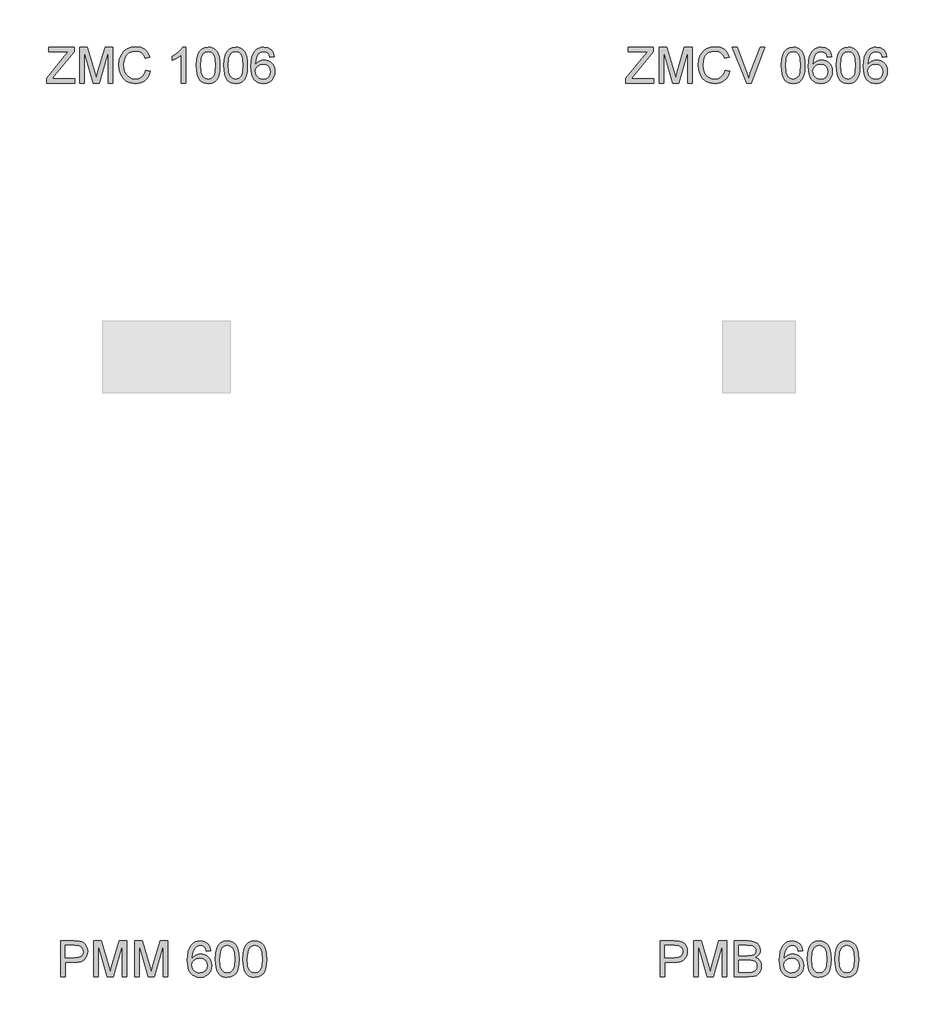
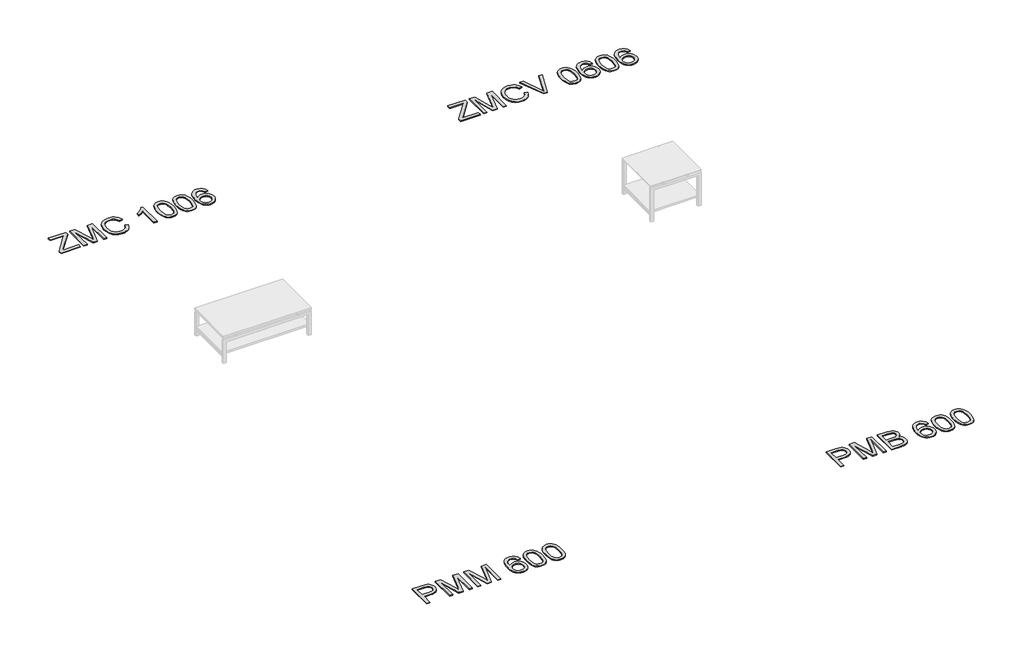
# One storey, part 4 of 5: 4 proxies.
"""IFC4 building model written with IfcOpenShell, lengths in millimetres."""

import ifcopenshell
import ifcopenshell.guid

model = None  # the IFC model being written
_history = None  # IfcOwnerHistory: only IFC2X3 demands one
_inside = {}  # id of a spatial element -> (the spatial element, [elements in it])
_under = {}  # id of a project, library or spatial element -> (it, [spatial elements below it])
_declared = {}  # id of a project -> (the project, [libraries it declares])
_typed = {}  # id of a type object -> (the type object, [elements of that type])
_made_of = {}  # id of a material, layer set ... -> (it, [elements and type objects made of it])


def new_model(schema):
    """Start an empty IFC model of exactly this schema.

    Asked for "IFC4X3", IfcOpenShell would pick the latest addendum, in which some entities
    have other attributes; the version numbers below select the first issue.
    IFC2X3 requires an IfcOwnerHistory on every rooted entity: one is made here for all.
    """
    global model, _history
    if schema == "IFC4X3":
        model = ifcopenshell.file(schema_version=(4, 3, 0, 0))
    else:
        model = ifcopenshell.file(schema=schema)
    _inside.clear()
    _under.clear()
    _declared.clear()
    _typed.clear()
    _made_of.clear()
    _history = None
    if model.schema == "IFC2X3":
        org = make("IfcOrganization", Name="unknown")
        user = make(
            "IfcPersonAndOrganization",
            ThePerson=make("IfcPerson", FamilyName="unknown"),
            TheOrganization=org,
        )
        app = make(
            "IfcApplication",
            ApplicationDeveloper=org,
            Version="unknown",
            ApplicationFullName="unknown",
            ApplicationIdentifier="unknown",
        )
        _history = make(
            "IfcOwnerHistory",
            OwningUser=user,
            OwningApplication=app,
            ChangeAction="ADDED",
            CreationDate=0,
        )
    return model


def make(cls, **values):
    """One entity of the class cls with the attributes given. An attribute that is None is left unset."""
    return model.create_entity(
        cls, **{name: value for name, value in values.items() if value is not None}
    )


def rooted(cls, **values):
    """An entity with a GlobalId (a new one), such as an element, a storey or a relation."""
    return make(cls, GlobalId=ifcopenshell.guid.new(), OwnerHistory=_history, **values)


def si_unit(unit_type, name, prefix=None):
    """IfcSIUnit, for example si_unit("LENGTHUNIT", "METRE", prefix="MILLI")."""
    return make("IfcSIUnit", UnitType=unit_type, Prefix=prefix, Name=name)


def assignment(units):
    """IfcUnitAssignment: the units of a project."""
    return None if units is None else make("IfcUnitAssignment", Units=units)


def point(xyz):
    """IfcCartesianPoint."""
    return None if xyz is None else make("IfcCartesianPoint", Coordinates=xyz)


def direction(xyz):
    """IfcDirection."""
    return None if xyz is None else make("IfcDirection", DirectionRatios=xyz)


def frame(location, z_axis=None, x_axis=None):
    """IfcAxis2Placement3D, a coordinate frame: its origin and axes. An axis left out is left unset."""
    return make(
        "IfcAxis2Placement3D",
        Location=point(location),
        Axis=direction(z_axis),
        RefDirection=direction(x_axis),
    )


def origin():
    """The frame at (0, 0, 0) with its axes left unset."""
    return frame((0.0, 0.0, 0.0))


def origin_with_axes():
    """The frame at (0, 0, 0) with the z axis (0, 0, 1) and the x axis (1, 0, 0) written out."""
    return frame((0.0, 0.0, 0.0), z_axis=(0.0, 0.0, 1.0), x_axis=(1.0, 0.0, 0.0))


def place(relative_to, where):
    """IfcLocalPlacement: puts the frame where relative to a parent placement (None: the world)."""
    return make(
        "IfcLocalPlacement", PlacementRelTo=relative_to, RelativePlacement=where
    )


def context(
    kind, dimensions, precision=None, world=None, true_north=None, identifier=None
):
    """IfcGeometricRepresentationContext, for example the 3D "Model" context."""
    return make(
        "IfcGeometricRepresentationContext",
        ContextIdentifier=identifier,
        ContextType=kind,
        CoordinateSpaceDimension=dimensions,
        Precision=precision,
        WorldCoordinateSystem=world,
        TrueNorth=true_north,
    )


def project(units=None, contexts=None):
    """IfcProject with its units and contexts."""
    return rooted(
        "IfcProject",
        Name="project",
        RepresentationContexts=contexts,
        UnitsInContext=assignment(units),
    )


def spatial(cls, under=None, at=None, **own):
    """A site, building, storey or space (cls), placed at a placement, below another one or the project."""
    s = rooted(cls, ObjectPlacement=at, **own)
    if under is not None:
        _under.setdefault(under.id(), (under, []))[1].append(s)
    return s


def polyline(points):
    """IfcPolyline through the points."""
    return make("IfcPolyline", Points=[point(p) for p in points])


def outline(outer, holes=None, kind="AREA"):
    """IfcArbitraryClosedProfileDef: a profile drawn as a closed curve; with holes, ...WithVoids."""
    if holes is None:
        return make("IfcArbitraryClosedProfileDef", ProfileType=kind, OuterCurve=outer)
    return make(
        "IfcArbitraryProfileDefWithVoids",
        ProfileType=kind,
        OuterCurve=outer,
        InnerCurves=holes,
    )


def extrude(swept, where, along, depth):
    """IfcExtrudedAreaSolid: the profile swept, set in the frame where, extruded along a direction by depth."""
    return make(
        "IfcExtrudedAreaSolid",
        SweptArea=swept,
        Position=where,
        ExtrudedDirection=direction(along),
        Depth=depth,
    )


def shape(context_of_items, identifier, shape_type, items):
    """IfcShapeRepresentation: the items that make up one representation, for example the "Body"."""
    return make(
        "IfcShapeRepresentation",
        ContextOfItems=context_of_items,
        RepresentationIdentifier=identifier,
        RepresentationType=shape_type,
        Items=items,
    )


def made_of(thing, what):
    """Note that an element or type object is made of a material, layer set ...; save() writes the relation."""
    if what is not None:
        _made_of.setdefault(what.id(), (what, []))[1].append(thing)
    return thing


def element(
    cls,
    number,
    at=None,
    inside=None,
    cuts=None,
    type_object=None,
    material=None,
    context=None,
    identifier="Body",
    shape_type=None,
    held_by="IfcProductDefinitionShape",
    body=None,
    shapes=None,
    **own,
):
    """One element of the class cls, such as IfcWall. Its Tag is "e" and its number.

    at: its placement. inside: the storey or other place that contains it. cuts: it is an
    opening in that element (IfcRelVoidsElement). A single representation is given by context,
    identifier, shape_type and body (its items); several are given by shapes. held_by: the class
    of the entity that holds the representations. save() writes the other relations.
    """
    e = rooted(cls, Tag="e%d" % number, ObjectPlacement=at, **own)
    if body is not None:
        shapes = [shape(context, identifier, shape_type, body)]
    if shapes is not None:
        e.Representation = make(held_by, Representations=shapes)
    if inside is not None:
        _inside.setdefault(inside.id(), (inside, []))[1].append(e)
    if cuts is not None:
        rooted(
            "IfcRelVoidsElement", RelatingBuildingElement=cuts, RelatedOpeningElement=e
        )
    if type_object is not None:
        _typed.setdefault(type_object.id(), (type_object, []))[1].append(e)
    return made_of(e, material)


def aggregate(whole, parts):
    """IfcRelAggregates: a whole, such as a stair, and the parts it consists of."""
    return rooted("IfcRelAggregates", RelatingObject=whole, RelatedObjects=parts)


def save(model, path):
    """Write the relations noted so far, then the file.

    IfcRelAggregates (storeys below a building ...), IfcRelContainedInSpatialStructure (elements
    in a storey), IfcRelDefinesByType, IfcRelAssociatesMaterial and IfcRelDeclares: one each for
    every whole, place, type object, material and project.
    """
    for whole, parts in _under.values():
        aggregate(whole, parts)
    for where, things in _inside.values():
        rooted(
            "IfcRelContainedInSpatialStructure",
            RelatedElements=things,
            RelatingStructure=where,
        )
    for kind, things in _typed.values():
        rooted("IfcRelDefinesByType", RelatedObjects=things, RelatingType=kind)
    for what, things in _made_of.values():
        rooted("IfcRelAssociatesMaterial", RelatedObjects=things, RelatingMaterial=what)
    for by, libraries in _declared.values():
        rooted("IfcRelDeclares", RelatingContext=by, RelatedDefinitions=libraries)
    model.write(path)


model = new_model("IFC4")

# Units and contexts
model_context = context("Model", 3, world=origin())
ifc_project = project(units=[si_unit("LENGTHUNIT", "METRE", prefix="MILLI")], contexts=[model_context])

# Site, building, storey
site = spatial("IfcSite", under=ifc_project)
building = spatial("IfcBuilding", under=site)
storey = spatial("IfcBuildingStorey", under=building, Name="Marelli - Linha PERFECTA - Planta Baixa", Elevation=0.0)

# Proxies
placement = place(None, origin())
element("IfcBuildingElementProxy", 1, Name="300mm Arial", ObjectType="300mm Arial", at=placement, inside=storey, context=model_context, shape_type="SweptSolid", body=[
    extrude(outline(polyline([(-70.4724751, 16219.4336799), (-70.4724751, 16258.5027478), (83.6700809, 16447.2262113), (112.9534877, 16483.1314941), (-51.6369169, 16483.1314941), (-51.6369169, 16520.8026104), (160.2631123, 16520.8026104), (160.2631123, 16483.1314941), (-8.4475707, 16276.602542), (-24.3400729, 16257.1047962), (164.9720019, 16257.1047962), (164.9720019, 16219.4336799), (-70.4724751, 16219.4336799)])), origin_with_axes(), (0.0, 0.0, 1.0), 10.0),
    extrude(outline(polyline([(207.3520077, 16219.4336799), (207.3520077, 16520.8026104), (272.1728153, 16520.8026104), (333.8298376, 16308.3875464), (346.2642491, 16264.0209777), (359.7287301, 16312.0663663), (420.3556829, 16520.8026104), (485.1764905, 16520.8026104), (485.1764905, 16219.4336799), (447.5053742, 16219.4336799), (447.5053742, 16483.1314941), (371.7952595, 16219.4336799), (320.7332386, 16219.4336799), (245.023124, 16483.1314941), (245.023124, 16219.4336799), (207.3520077, 16219.4336799)])), origin_with_axes(), (0.0, 0.0, 1.0), 10.0),
    extrude(outline(polyline([(763.0009732, 16326.5609169), (800.6720895, 16316.8488323), (793.2178806, 16293.4216469), (783.2896653, 16272.9513132), (770.8874435, 16255.4378309), (756.0112153, 16240.8812003), (738.996673, 16229.4377709), (720.179509, 16221.2638929), (699.5597232, 16216.359566), (677.1373155, 16214.7247904), (633.4421316, 16219.6728032), (598.7416624, 16234.5168417), (572.1437941, 16258.7418711), (552.756413, 16291.8328566), (540.9198098, 16330.7363776), (536.9742754, 16372.3990135), (541.4348446, 16416.3425179), (554.8165521, 16454.2895457), (576.4204223, 16485.0352834), (605.5474793, 16507.3749176), (640.0915986, 16520.9773543), (677.9466559, 16525.5114999), (719.2506069, 16519.6437821), (737.2193431, 16512.3091348), (753.3992531, 16502.0406286), (767.5236225, 16489.1095765), (779.3257368, 16473.7872914), (795.9632, 16435.9690223), (758.2920837, 16426.9927016), (745.2322729, 16454.4642896), (727.3899961, 16473.3090448), (704.5445242, 16484.2075489), (676.475128, 16487.8403836), (644.1199065, 16483.8120758), (617.5404323, 16471.7271522), (597.3713019, 16452.8548059), (584.2471118, 16428.4642296), (577.0458217, 16400.8914741), (574.6453917, 16372.4725899), (577.4872801, 16337.6709532), (586.0129453, 16307.578206), (600.5442841, 16283.3439795), (621.4031933, 16266.1179051), (646.4099719, 16255.8264063), (673.3849192, 16252.3959067), (704.8296327, 16257.068008), (731.0320278, 16271.0843121), (750.8148821, 16294.297666), (763.0009732, 16326.5609169)])), origin_with_axes(), (0.0, 0.0, 1.0), 10.0),
    extrude(outline(polyline([(1097.3321304, 16219.4336799), (1059.6610141, 16219.4336799), (1059.6610141, 16454.2895457), (1023.9764606, 16428.8688998), (984.3187815, 16409.8494006), (984.3187815, 16445.4603778), (1013.905691, 16461.5552151), (1039.537869, 16480.7034729), (1059.7437876, 16501.0657413), (1073.0519188, 16520.8026104), (1097.3321304, 16520.8026104), (1097.3321304, 16219.4336799)])), origin_with_axes(), (0.0, 0.0, 1.0), 10.0),
    extrude(outline(polyline([(1186.8010317, 16367.690124), (1189.5693437, 16415.9286506), (1197.8742797, 16454.3999103), (1211.6330663, 16483.6925141), (1230.7629301, 16504.3950734), (1255.4018267, 16516.7007261), (1285.687712, 16520.8026104), (1308.9010659, 16518.3745892), (1329.6863986, 16511.0905257), (1347.0688229, 16499.2355284), (1360.0734514, 16483.0947059), (1369.8959007, 16462.8060138), (1377.7317872, 16438.5074081), (1382.863741, 16407.6513057), (1384.5743923, 16367.690124), (1381.8336714, 16319.7275089), (1373.6115088, 16281.3482197), (1359.9354956, 16252.0280247), (1340.833223, 16231.242692), (1316.1391441, 16218.8542658), (1285.687712, 16214.7247904), (1264.9391674, 16216.5182151), (1246.5450677, 16221.8984893), (1230.5054127, 16230.8656129), (1216.8202025, 16243.419586), (1203.6868152, 16266.1133066), (1194.3058244, 16294.3896364), (1188.6772298, 16328.2485756), (1186.8010317, 16367.690124)]), holes=[polyline([(1224.472148, 16367.7637004), (1228.8867319, 16308.507108), (1234.4049618, 16288.2391093), (1242.1304837, 16274.211309), (1261.8489587, 16257.8497573), (1285.687712, 16252.3959067), (1309.5264653, 16257.8681514), (1329.2449402, 16274.2848854), (1336.9704621, 16288.3356784), (1342.488692, 16308.5990785), (1346.903276, 16367.7637004), (1342.6358448, 16425.6867205), (1337.3015559, 16445.8880406), (1329.8335514, 16460.249234), (1310.1518646, 16477.410929), (1285.2462536, 16483.1314941), (1261.6650177, 16478.0915107), (1242.7190949, 16462.9715607), (1234.7360556, 16447.3365759), (1229.0338847, 16426.2569376), (1224.472148, 16367.7637004)])]), origin_with_axes(), (0.0, 0.0, 1.0), 10.0),
    extrude(outline(polyline([(1417.536619, 16367.690124), (1420.3049311, 16415.9286506), (1428.6098671, 16454.3999103), (1442.3686537, 16483.6925141), (1461.4985175, 16504.3950734), (1486.1374141, 16516.7007261), (1516.4232993, 16520.8026104), (1539.6366532, 16518.3745892), (1560.421986, 16511.0905257), (1577.8044102, 16499.2355284), (1590.8090388, 16483.0947059), (1600.631488, 16462.8060138), (1608.4673745, 16438.5074081), (1613.5993284, 16407.6513057), (1615.3099796, 16367.690124), (1612.5692588, 16319.7275089), (1604.3470962, 16281.3482197), (1590.671083, 16252.0280247), (1571.5688104, 16231.242692), (1546.8747315, 16218.8542658), (1516.4232993, 16214.7247904), (1495.6747548, 16216.5182151), (1477.2806551, 16221.8984893), (1461.2410001, 16230.8656129), (1447.5557898, 16243.419586), (1434.4224026, 16266.1133066), (1425.0414117, 16294.3896364), (1419.4128172, 16328.2485756), (1417.536619, 16367.690124)]), holes=[polyline([(1455.2077353, 16367.7637004), (1459.6223193, 16308.507108), (1465.1405492, 16288.2391093), (1472.8660711, 16274.211309), (1492.5845461, 16257.8497573), (1516.4232993, 16252.3959067), (1540.2620526, 16257.8681514), (1559.9805276, 16274.2848854), (1567.7060495, 16288.3356784), (1573.2242794, 16308.5990785), (1577.6388633, 16367.7637004), (1573.3714322, 16425.6867205), (1568.0371433, 16445.8880406), (1560.5691388, 16460.249234), (1540.887452, 16477.410929), (1515.9818409, 16483.1314941), (1492.4006051, 16478.0915107), (1473.4546823, 16462.9715607), (1465.471643, 16447.3365759), (1459.7694721, 16426.2569376), (1455.2077353, 16367.7637004)])]), origin_with_axes(), (0.0, 0.0, 1.0), 10.0),
    extrude(outline(polyline([(1841.3366775, 16440.7514882), (1803.6655612, 16436.0425987), (1797.5955083, 16454.7126099), (1789.3917398, 16467.4597211), (1772.3036211, 16479.2135508), (1751.6470471, 16483.1314941), (1734.1358641, 16480.8506257), (1717.6547507, 16474.0080206), (1703.5004909, 16459.5962434), (1691.9397992, 16439.7582068), (1684.1315039, 16411.6980077), (1681.2344332, 16372.6197427), (1696.3451861, 16390.2504873), (1714.4541773, 16402.6757017), (1734.5497313, 16410.0425387), (1755.6201726, 16412.498151), (1773.7199668, 16410.8196894), (1790.4218093, 16405.7843046), (1805.7257003, 16397.3919966), (1819.6316398, 16385.6427654), (1831.1877329, 16371.2355867), (1839.4420852, 16354.8694365), (1844.3946966, 16336.5443146), (1846.045567, 16316.2602211), (1842.9369642, 16289.2852738), (1833.6111556, 16264.2784951), (1818.8406935, 16243.0700981), (1799.39813, 16227.4902956), (1776.166382, 16217.9161667), (1750.0283663, 16214.7247904), (1727.5714697, 16216.8401119), (1707.2896755, 16223.1860763), (1689.1829835, 16233.7626836), (1673.2513939, 16248.5699339), (1660.2628602, 16268.2332266), (1650.9853361, 16293.377961), (1645.4188217, 16324.0041371), (1643.5633169, 16360.1117549), (1645.623456, 16400.5925699), (1651.8038736, 16435.1412878), (1662.1045694, 16463.7579085), (1676.5255436, 16486.442432), (1692.1559299, 16501.4750101), (1710.2787167, 16512.2125658), (1730.893904, 16518.6550992), (1754.0014918, 16520.8026104), (1787.0556891, 16515.4867156), (1813.5247986, 16499.5390311), (1832.0660512, 16474.2103557), (1841.3366775, 16440.7514882)]), holes=[polyline([(1681.2344332, 16316.8488323), (1683.414134, 16300.1561867), (1689.9532365, 16284.2176993), (1700.1067795, 16270.514095), (1713.1298022, 16260.5260988), (1728.8475604, 16254.4284547), (1747.0853103, 16252.3959067), (1771.9449361, 16256.6081555), (1791.4886671, 16269.2449021), (1804.1530048, 16289.1105298), (1808.3744507, 16315.0094223), (1804.2081871, 16339.8690481), (1791.7093963, 16358.8241679), (1771.8345715, 16370.826318), (1745.5402059, 16374.8270347), (1720.7173683, 16370.826318), (1699.9596267, 16358.8241679), (1685.9157316, 16340.3289006), (1681.2344332, 16316.8488323)])]), origin_with_axes(), (0.0, 0.0, 1.0), 10.0),
])
element("IfcBuildingElementProxy", 2, Name="300mm Arial", ObjectType="300mm Arial", at=placement, inside=storey, context=model_context, shape_type="SweptSolid", body=[
    extrude(outline(polyline([(4790.6152836, 16219.4336799), (4790.6152836, 16258.5027478), (4944.7578395, 16447.2262113), (4974.0412464, 16483.1314941), (4809.4508417, 16483.1314941), (4809.4508417, 16520.8026104), (5021.3508709, 16520.8026104), (5021.3508709, 16483.1314941), (4852.640188, 16276.602542), (4836.7476858, 16257.1047962), (5026.0597605, 16257.1047962), (5026.0597605, 16219.4336799), (4790.6152836, 16219.4336799)])), origin_with_axes(), (0.0, 0.0, 1.0), 10.0),
    extrude(outline(polyline([(5068.4397663, 16219.4336799), (5068.4397663, 16520.8026104), (5133.2605739, 16520.8026104), (5194.9175963, 16308.3875464), (5207.3520077, 16264.0209777), (5220.8164887, 16312.0663663), (5281.4434415, 16520.8026104), (5346.2642491, 16520.8026104), (5346.2642491, 16219.4336799), (5308.5931328, 16219.4336799), (5308.5931328, 16483.1314941), (5232.8830182, 16219.4336799), (5181.8209972, 16219.4336799), (5106.1108826, 16483.1314941), (5106.1108826, 16219.4336799), (5068.4397663, 16219.4336799)])), origin_with_axes(), (0.0, 0.0, 1.0), 10.0),
    extrude(outline(polyline([(5624.0887318, 16326.5609169), (5661.7598481, 16316.8488323), (5654.3056392, 16293.4216469), (5644.3774239, 16272.9513132), (5631.9752021, 16255.4378309), (5617.0989739, 16240.8812003), (5600.0844317, 16229.4377709), (5581.2672676, 16221.2638929), (5560.6474818, 16216.359566), (5538.2250742, 16214.7247904), (5494.5298902, 16219.6728032), (5459.829421, 16234.5168417), (5433.2315527, 16258.7418711), (5413.8441716, 16291.8328566), (5402.0075684, 16330.7363776), (5398.062034, 16372.3990135), (5402.5226032, 16416.3425179), (5415.9043108, 16454.2895457), (5437.5081809, 16485.0352834), (5466.6352379, 16507.3749176), (5501.1793573, 16520.9773543), (5539.0344146, 16525.5114999), (5580.3383656, 16519.6437821), (5598.3071018, 16512.3091348), (5614.4870118, 16502.0406286), (5628.6113811, 16489.1095765), (5640.4134954, 16473.7872914), (5657.0509586, 16435.9690223), (5619.3798423, 16426.9927016), (5606.3200315, 16454.4642896), (5588.4777547, 16473.3090448), (5565.6322828, 16484.2075489), (5537.5628866, 16487.8403836), (5505.2076651, 16483.8120758), (5478.6281909, 16471.7271522), (5458.4590606, 16452.8548059), (5445.3348704, 16428.4642296), (5438.1335803, 16400.8914741), (5435.7331503, 16372.4725899), (5438.5750387, 16337.6709532), (5447.100704, 16307.578206), (5461.6320428, 16283.3439795), (5482.4909519, 16266.1179051), (5507.4977305, 16255.8264063), (5534.4726778, 16252.3959067), (5565.9173914, 16257.068008), (5592.1197865, 16271.0843121), (5611.9026407, 16294.297666), (5624.0887318, 16326.5609169)])), origin_with_axes(), (0.0, 0.0, 1.0), 10.0),
    extrude(outline(polyline([(5802.5850759, 16219.4336799), (5682.6555455, 16520.8026104), (5722.9754121, 16520.8026104), (5803.2472635, 16303.6786568), (5819.5076477, 16254.7503515), (5835.5473027, 16303.6786568), (5916.0398832, 16520.8026104), (5956.3597499, 16520.8026104), (5841.506991, 16219.4336799), (5802.5850759, 16219.4336799)])), origin_with_axes(), (0.0, 0.0, 1.0), 10.0),
    extrude(outline(polyline([(6094.9776857, 16367.690124), (6097.7459977, 16415.9286506), (6106.0509337, 16454.3999103), (6119.8097203, 16483.6925141), (6138.9395841, 16504.3950734), (6163.5784807, 16516.7007261), (6193.864366, 16520.8026104), (6217.0777199, 16518.3745892), (6237.8630526, 16511.0905257), (6255.2454769, 16499.2355284), (6268.2501054, 16483.0947059), (6278.0725547, 16462.8060138), (6285.9084412, 16438.5074081), (6291.040395, 16407.6513057), (6292.7510463, 16367.690124), (6290.0103254, 16319.7275089), (6281.7881628, 16281.3482197), (6268.1121496, 16252.0280247), (6249.009877, 16231.242692), (6224.3157981, 16218.8542658), (6193.864366, 16214.7247904), (6173.1158214, 16216.5182151), (6154.7217217, 16221.8984893), (6138.6820667, 16230.8656129), (6124.9968565, 16243.419586), (6111.8634692, 16266.1133066), (6102.4824784, 16294.3896364), (6096.8538838, 16328.2485756), (6094.9776857, 16367.690124)]), holes=[polyline([(6132.648802, 16367.7637004), (6137.0633859, 16308.507108), (6142.5816158, 16288.2391093), (6150.3071377, 16274.211309), (6170.0256127, 16257.8497573), (6193.864366, 16252.3959067), (6217.7031193, 16257.8681514), (6237.4215942, 16274.2848854), (6245.1471161, 16288.3356784), (6250.665346, 16308.5990785), (6255.07993, 16367.7637004), (6250.8124988, 16425.6867205), (6245.4782099, 16445.8880406), (6238.0102054, 16460.249234), (6218.3285186, 16477.410929), (6193.4229076, 16483.1314941), (6169.8416717, 16478.0915107), (6150.8957489, 16462.9715607), (6142.9127096, 16447.3365759), (6137.2105387, 16426.2569376), (6132.648802, 16367.7637004)])]), origin_with_axes(), (0.0, 0.0, 1.0), 10.0),
    extrude(outline(polyline([(6518.7777441, 16440.7514882), (6481.1066278, 16436.0425987), (6475.0365749, 16454.7126099), (6466.8328064, 16467.4597211), (6449.7446877, 16479.2135508), (6429.0881137, 16483.1314941), (6411.5769307, 16480.8506257), (6395.0958173, 16474.0080206), (6380.9415576, 16459.5962434), (6369.3808659, 16439.7582068), (6361.5725705, 16411.6980077), (6358.6754998, 16372.6197427), (6373.7862528, 16390.2504873), (6391.895244, 16402.6757017), (6411.990798, 16410.0425387), (6433.0612392, 16412.498151), (6451.1610334, 16410.8196894), (6467.862876, 16405.7843046), (6483.166767, 16397.3919966), (6497.0727064, 16385.6427654), (6508.6287996, 16371.2355867), (6516.8831518, 16354.8694365), (6521.8357632, 16336.5443146), (6523.4866336, 16316.2602211), (6520.3780308, 16289.2852738), (6511.0522222, 16264.2784951), (6496.2817601, 16243.0700981), (6476.8391967, 16227.4902956), (6453.6074487, 16217.9161667), (6427.4694329, 16214.7247904), (6405.0125364, 16216.8401119), (6384.7307421, 16223.1860763), (6366.6240502, 16233.7626836), (6350.6924605, 16248.5699339), (6337.7039268, 16268.2332266), (6328.4264028, 16293.377961), (6322.8598883, 16324.0041371), (6321.0043835, 16360.1117549), (6323.0645227, 16400.5925699), (6329.2449402, 16435.1412878), (6339.5456361, 16463.7579085), (6353.9666103, 16486.442432), (6369.5969965, 16501.4750101), (6387.7197833, 16512.2125658), (6408.3349706, 16518.6550992), (6431.4425585, 16520.8026104), (6464.4967557, 16515.4867156), (6490.9658653, 16499.5390311), (6509.5071178, 16474.2103557), (6518.7777441, 16440.7514882)]), holes=[polyline([(6358.6754998, 16316.8488323), (6360.8552006, 16300.1561867), (6367.3943031, 16284.2176993), (6377.5478462, 16270.514095), (6390.5708688, 16260.5260988), (6406.288627, 16254.4284547), (6424.5263769, 16252.3959067), (6449.3860028, 16256.6081555), (6468.9297338, 16269.2449021), (6481.5940714, 16289.1105298), (6485.8155173, 16315.0094223), (6481.6492537, 16339.8690481), (6469.150463, 16358.8241679), (6449.2756382, 16370.826318), (6422.9812726, 16374.8270347), (6398.1584349, 16370.826318), (6377.4006934, 16358.8241679), (6363.3567982, 16340.3289006), (6358.6754998, 16316.8488323)])]), origin_with_axes(), (0.0, 0.0, 1.0), 10.0),
    extrude(outline(polyline([(6556.4488604, 16367.690124), (6559.2171724, 16415.9286506), (6567.5221085, 16454.3999103), (6581.2808951, 16483.6925141), (6600.4107588, 16504.3950734), (6625.0496555, 16516.7007261), (6655.3355407, 16520.8026104), (6678.5488946, 16518.3745892), (6699.3342273, 16511.0905257), (6716.7166516, 16499.2355284), (6729.7212801, 16483.0947059), (6739.5437294, 16462.8060138), (6747.3796159, 16438.5074081), (6752.5115697, 16407.6513057), (6754.222221, 16367.690124), (6751.4815002, 16319.7275089), (6743.2593376, 16281.3482197), (6729.5833244, 16252.0280247), (6710.4810518, 16231.242692), (6685.7869729, 16218.8542658), (6655.3355407, 16214.7247904), (6634.5869962, 16216.5182151), (6616.1928964, 16221.8984893), (6600.1532414, 16230.8656129), (6586.4680312, 16243.419586), (6573.334644, 16266.1133066), (6563.9536531, 16294.3896364), (6558.3250586, 16328.2485756), (6556.4488604, 16367.690124)]), holes=[polyline([(6594.1199767, 16367.7637004), (6598.5345607, 16308.507108), (6604.0527906, 16288.2391093), (6611.7783125, 16274.211309), (6631.4967874, 16257.8497573), (6655.3355407, 16252.3959067), (6679.174294, 16257.8681514), (6698.8927689, 16274.2848854), (6706.6182908, 16288.3356784), (6712.1365208, 16308.5990785), (6716.5511047, 16367.7637004), (6712.2836736, 16425.6867205), (6706.9493846, 16445.8880406), (6699.4813801, 16460.249234), (6679.7996934, 16477.410929), (6654.8940823, 16483.1314941), (6631.3128464, 16478.0915107), (6612.3669237, 16462.9715607), (6604.3838844, 16447.3365759), (6598.6817135, 16426.2569376), (6594.1199767, 16367.7637004)])]), origin_with_axes(), (0.0, 0.0, 1.0), 10.0),
    extrude(outline(polyline([(6980.2489189, 16440.7514882), (6942.5778026, 16436.0425987), (6936.5077496, 16454.7126099), (6928.3039811, 16467.4597211), (6911.2158625, 16479.2135508), (6890.5592884, 16483.1314941), (6873.0481055, 16480.8506257), (6856.5669921, 16474.0080206), (6842.4127323, 16459.5962434), (6830.8520406, 16439.7582068), (6823.0437453, 16411.6980077), (6820.1466746, 16372.6197427), (6835.2574275, 16390.2504873), (6853.3664187, 16402.6757017), (6873.4619727, 16410.0425387), (6894.532414, 16412.498151), (6912.6322081, 16410.8196894), (6929.3340507, 16405.7843046), (6944.6379417, 16397.3919966), (6958.5438811, 16385.6427654), (6970.0999743, 16371.2355867), (6978.3543266, 16354.8694365), (6983.3069379, 16336.5443146), (6984.9578084, 16316.2602211), (6981.8492055, 16289.2852738), (6972.523397, 16264.2784951), (6957.7529349, 16243.0700981), (6938.3103714, 16227.4902956), (6915.0786234, 16217.9161667), (6888.9406077, 16214.7247904), (6866.4837111, 16216.8401119), (6846.2019169, 16223.1860763), (6828.0952249, 16233.7626836), (6812.1636353, 16248.5699339), (6799.1751016, 16268.2332266), (6789.8975775, 16293.377961), (6784.3310631, 16324.0041371), (6782.4755583, 16360.1117549), (6784.5356974, 16400.5925699), (6790.7161149, 16435.1412878), (6801.0168108, 16463.7579085), (6815.437785, 16486.442432), (6831.0681713, 16501.4750101), (6849.1909581, 16512.2125658), (6869.8061454, 16518.6550992), (6892.9137332, 16520.8026104), (6925.9679305, 16515.4867156), (6952.43704, 16499.5390311), (6970.9782926, 16474.2103557), (6980.2489189, 16440.7514882)]), holes=[polyline([(6820.1466746, 16316.8488323), (6822.3263754, 16300.1561867), (6828.8654778, 16284.2176993), (6839.0190209, 16270.514095), (6852.0420435, 16260.5260988), (6867.7598018, 16254.4284547), (6885.9975517, 16252.3959067), (6910.8571775, 16256.6081555), (6930.4009085, 16269.2449021), (6943.0652462, 16289.1105298), (6947.2866921, 16315.0094223), (6943.1204285, 16339.8690481), (6930.6216377, 16358.8241679), (6910.7468129, 16370.826318), (6884.4524473, 16374.8270347), (6859.6296097, 16370.826318), (6838.8718681, 16358.8241679), (6824.8279729, 16340.3289006), (6820.1466746, 16316.8488323)])]), origin_with_axes(), (0.0, 0.0, 1.0), 10.0),
])
element("IfcBuildingElementProxy", 3, Name="300mm Arial", ObjectType="300mm Arial", at=placement, inside=storey, context=model_context, shape_type="SweptSolid", body=[
    extrude(outline(polyline([(47.2497634, 8719.4336799), (47.2497634, 9020.8026104), (158.9387371, 9020.8026104), (203.9674933, 9017.9331308), (224.0446532, 9012.5712507), (240.5717519, 9003.8432504), (253.879883, 8991.3536567), (264.3001406, 8974.7069964), (271.0323811, 8955.0712949), (273.2764612, 8933.6145775), (271.7612473, 8915.1147117), (267.2156054, 8898.0955709), (259.6395355, 8882.5571551), (249.0330378, 8868.4994644), (234.4718085, 8856.8468022), (215.0315444, 8848.523472), (190.7122452, 8843.529474), (161.5139111, 8841.8648079), (84.9208797, 8841.8648079), (84.9208797, 8719.4336799), (47.2497634, 8719.4336799)]), holes=[polyline([(84.9208797, 8879.5359242), (163.7212031, 8879.5359242), (197.1248882, 8882.994015), (219.1978079, 8893.3682873), (231.5034607, 8910.0149475), (235.6053449, 8932.2902023), (233.1865208, 8949.2127741), (225.9300485, 8963.4865955), (214.7372388, 8974.2287498), (200.5094026, 8980.5563201), (162.8382863, 8983.1314941), (84.9208797, 8983.1314941), (84.9208797, 8879.5359242)])]), origin_with_axes(), (0.0, 0.0, 1.0), 10.0),
    extrude(outline(polyline([(325.0742462, 8719.4336799), (325.0742462, 9020.8026104), (389.8950537, 9020.8026104), (451.5520761, 8808.3875464), (463.9864875, 8764.0209777), (477.4509686, 8812.0663663), (538.0779214, 9020.8026104), (602.8987289, 9020.8026104), (602.8987289, 8719.4336799), (565.2276126, 8719.4336799), (565.2276126, 8983.1314941), (489.517498, 8719.4336799), (438.4554771, 8719.4336799), (362.7453625, 8983.1314941), (362.7453625, 8719.4336799), (325.0742462, 8719.4336799)])), origin_with_axes(), (0.0, 0.0, 1.0), 10.0),
    extrude(outline(polyline([(668.8231825, 8719.4336799), (668.8231825, 9020.8026104), (733.64399, 9020.8026104), (795.3010124, 8808.3875464), (807.7354238, 8764.0209777), (821.1999049, 8812.0663663), (881.8268577, 9020.8026104), (946.6476652, 9020.8026104), (946.6476652, 8719.4336799), (908.9765489, 8719.4336799), (908.9765489, 8983.1314941), (833.2664343, 8719.4336799), (782.2044134, 8719.4336799), (706.4942988, 8983.1314941), (706.4942988, 8719.4336799), (668.8231825, 8719.4336799)])), origin_with_axes(), (0.0, 0.0, 1.0), 10.0),
    extrude(outline(polyline([(1309.2321597, 8940.7514882), (1271.5610434, 8936.0425987), (1265.4909904, 8954.7126099), (1257.2872219, 8967.4597211), (1240.1991033, 8979.2135508), (1219.5425292, 8983.1314941), (1202.0313463, 8980.8506257), (1185.5502329, 8974.0080206), (1171.3959731, 8959.5962434), (1159.8352814, 8939.7582068), (1152.0269861, 8911.6980077), (1149.1299154, 8872.6197427), (1164.2406683, 8890.2504873), (1182.3496595, 8902.6757017), (1202.4452135, 8910.0425387), (1223.5156548, 8912.498151), (1241.6154489, 8910.8196894), (1258.3172915, 8905.7843046), (1273.6211825, 8897.3919966), (1287.5271219, 8885.6427654), (1299.0832151, 8871.2355867), (1307.3375674, 8854.8694365), (1312.2901787, 8836.5443146), (1313.9410492, 8816.2602211), (1310.8324463, 8789.2852738), (1301.5066378, 8764.2784951), (1286.7361757, 8743.0700981), (1267.2936122, 8727.4902956), (1244.0618642, 8717.9161667), (1217.9238485, 8714.7247904), (1195.4669519, 8716.8401119), (1175.1851577, 8723.1860763), (1157.0784657, 8733.7626836), (1141.1468761, 8748.5699339), (1128.1583424, 8768.2332266), (1118.8808183, 8793.377961), (1113.3143039, 8824.0041371), (1111.458799, 8860.1117549), (1113.5189382, 8900.5925699), (1119.6993557, 8935.1412878), (1130.0000516, 8963.7579085), (1144.4210258, 8986.442432), (1160.0514121, 9001.4750101), (1178.1741989, 9012.2125658), (1198.7893862, 9018.6550992), (1221.896974, 9020.8026104), (1254.9511713, 9015.4867156), (1281.4202808, 8999.5390311), (1299.9615334, 8974.2103557), (1309.2321597, 8940.7514882)]), holes=[polyline([(1149.1299154, 8816.8488323), (1151.3096162, 8800.1561867), (1157.8487186, 8784.2176993), (1168.0022617, 8770.514095), (1181.0252843, 8760.5260988), (1196.7430426, 8754.4284547), (1214.9807925, 8752.3959067), (1239.8404183, 8756.6081555), (1259.3841493, 8769.2449021), (1272.048487, 8789.1105298), (1276.2699329, 8815.0094223), (1272.1036693, 8839.8690481), (1259.6048785, 8858.8241679), (1239.7300537, 8870.826318), (1213.4356881, 8874.8270347), (1188.6128505, 8870.826318), (1167.8551089, 8858.8241679), (1153.8112137, 8840.3289006), (1149.1299154, 8816.8488323)])]), origin_with_axes(), (0.0, 0.0, 1.0), 10.0),
    extrude(outline(polyline([(1346.903276, 8867.690124), (1349.671588, 8915.9286506), (1357.976524, 8954.3999103), (1371.7353106, 8983.6925141), (1390.8651744, 9004.3950734), (1415.504071, 9016.7007261), (1445.7899563, 9020.8026104), (1469.0033102, 9018.3745892), (1489.7886429, 9011.0905257), (1507.1710672, 8999.2355284), (1520.1756957, 8983.0947059), (1529.998145, 8962.8060138), (1537.8340315, 8938.5074081), (1542.9659853, 8907.6513057), (1544.6766366, 8867.690124), (1541.9359157, 8819.7275089), (1533.7137531, 8781.3482197), (1520.0377399, 8752.0280247), (1500.9354673, 8731.242692), (1476.2413884, 8718.8542658), (1445.7899563, 8714.7247904), (1425.0414117, 8716.5182151), (1406.647312, 8721.8984893), (1390.607657, 8730.8656129), (1376.9224468, 8743.419586), (1363.7890595, 8766.1133066), (1354.4080687, 8794.3896364), (1348.7794741, 8828.2485756), (1346.903276, 8867.690124)]), holes=[polyline([(1384.5743923, 8867.7637004), (1388.9889762, 8808.507108), (1394.5072061, 8788.2391093), (1402.232728, 8774.211309), (1421.951203, 8757.8497573), (1445.7899563, 8752.3959067), (1469.6287096, 8757.8681514), (1489.3471845, 8774.2848854), (1497.0727064, 8788.3356784), (1502.5909363, 8808.5990785), (1507.0055203, 8867.7637004), (1502.7380891, 8925.6867205), (1497.4038002, 8945.8880406), (1489.9357957, 8960.249234), (1470.2541089, 8977.410929), (1445.3484979, 8983.1314941), (1421.767262, 8978.0915107), (1402.8213392, 8962.9715607), (1394.8382999, 8947.3365759), (1389.136129, 8926.2569376), (1384.5743923, 8867.7637004)])]), origin_with_axes(), (0.0, 0.0, 1.0), 10.0),
    extrude(outline(polyline([(1577.6388633, 8867.690124), (1580.4071754, 8915.9286506), (1588.7121114, 8954.3999103), (1602.470898, 8983.6925141), (1621.6007618, 9004.3950734), (1646.2396584, 9016.7007261), (1676.5255436, 9020.8026104), (1699.7388975, 9018.3745892), (1720.5242303, 9011.0905257), (1737.9066545, 8999.2355284), (1750.9112831, 8983.0947059), (1760.7337323, 8962.8060138), (1768.5696188, 8938.5074081), (1773.7015727, 8907.6513057), (1775.4122239, 8867.690124), (1772.6715031, 8819.7275089), (1764.4493405, 8781.3482197), (1750.7733273, 8752.0280247), (1731.6710547, 8731.242692), (1706.9769758, 8718.8542658), (1676.5255436, 8714.7247904), (1655.7769991, 8716.5182151), (1637.3828994, 8721.8984893), (1621.3432444, 8730.8656129), (1607.6580341, 8743.419586), (1594.5246469, 8766.1133066), (1585.143656, 8794.3896364), (1579.5150615, 8828.2485756), (1577.6388633, 8867.690124)]), holes=[polyline([(1615.3099796, 8867.7637004), (1619.7245636, 8808.507108), (1625.2427935, 8788.2391093), (1632.9683154, 8774.211309), (1652.6867904, 8757.8497573), (1676.5255436, 8752.3959067), (1700.3642969, 8757.8681514), (1720.0827719, 8774.2848854), (1727.8082938, 8788.3356784), (1733.3265237, 8808.5990785), (1737.7411076, 8867.7637004), (1733.4736765, 8925.6867205), (1728.1393876, 8945.8880406), (1720.6713831, 8960.249234), (1700.9896963, 8977.410929), (1676.0840852, 8983.1314941), (1652.5028494, 8978.0915107), (1633.5569266, 8962.9715607), (1625.5738873, 8947.3365759), (1619.8717164, 8926.2569376), (1615.3099796, 8867.7637004)])]), origin_with_axes(), (0.0, 0.0, 1.0), 10.0),
])
element("IfcBuildingElementProxy", 4, Name="300mm Arial", ObjectType="300mm Arial", at=placement, inside=storey, context=model_context, shape_type="SweptSolid", body=[
    extrude(outline(polyline([(5080.2119902, 8719.4336799), (5080.2119902, 9020.8026104), (5191.9009639, 9020.8026104), (5236.9297201, 9017.9331308), (5257.00688, 9012.5712507), (5273.5339786, 9003.8432504), (5286.8421098, 8991.3536567), (5297.2623673, 8974.7069964), (5303.9946078, 8955.0712949), (5306.238688, 8933.6145775), (5304.723474, 8915.1147117), (5300.1778321, 8898.0955709), (5292.6017623, 8882.5571551), (5281.9952645, 8868.4994644), (5267.4340353, 8856.8468022), (5247.9937711, 8848.523472), (5223.674472, 8843.529474), (5194.4761379, 8841.8648079), (5117.8831065, 8841.8648079), (5117.8831065, 8719.4336799), (5080.2119902, 8719.4336799)]), holes=[polyline([(5117.8831065, 8879.5359242), (5196.6834298, 8879.5359242), (5230.087115, 8882.994015), (5252.1600347, 8893.3682873), (5264.4656875, 8910.0149475), (5268.5675717, 8932.2902023), (5266.1487476, 8949.2127741), (5258.8922752, 8963.4865955), (5247.6994655, 8974.2287498), (5233.4716294, 8980.5563201), (5195.8005131, 8983.1314941), (5117.8831065, 8983.1314941), (5117.8831065, 8879.5359242)])]), origin_with_axes(), (0.0, 0.0, 1.0), 10.0),
    extrude(outline(polyline([(5358.0364729, 8719.4336799), (5358.0364729, 9020.8026104), (5422.8572805, 9020.8026104), (5484.5143029, 8808.3875464), (5496.9487143, 8764.0209777), (5510.4131953, 8812.0663663), (5571.0401481, 9020.8026104), (5635.8609557, 9020.8026104), (5635.8609557, 8719.4336799), (5598.1898394, 8719.4336799), (5598.1898394, 8983.1314941), (5522.4797248, 8719.4336799), (5471.4177038, 8719.4336799), (5395.7075892, 8983.1314941), (5395.7075892, 8719.4336799), (5358.0364729, 8719.4336799)])), origin_with_axes(), (0.0, 0.0, 1.0), 10.0),
    extrude(outline(polyline([(5701.7854092, 8719.4336799), (5701.7854092, 9020.8026104), (5816.7853209, 9020.8026104), (5848.4139754, 9018.5861214), (5873.1080544, 9011.9366543), (5892.035583, 9000.6886623), (5906.3645867, 8984.6765985), (5915.3868927, 8965.8410403), (5918.394328, 8946.1225654), (5915.8651393, 8927.9767859), (5908.2775731, 8910.9162584), (5895.5764472, 8895.9894465), (5877.7065793, 8884.2448138), (5899.0529321, 8873.0979893), (5914.8258726, 8856.1386293), (5924.5655485, 8834.4887739), (5927.8121071, 8809.2704632), (5925.595618, 8788.2552042), (5918.946151, 8768.7666555), (5909.0225342, 8752.1935716), (5896.9835959, 8739.9247071), (5882.2407249, 8731.0403569), (5864.2053101, 8724.6208161), (5815.9024041, 8719.4336799), (5701.7854092, 8719.4336799)]), holes=[polyline([(5739.4565255, 8898.3714824), (5808.2504586, 8898.3714824), (5848.4231725, 8901.6088439), (5862.4854618, 8907.1914532), (5872.5930196, 8915.5515716), (5878.6906637, 8926.5604403), (5880.7232117, 8940.0893006), (5878.8286194, 8953.2226879), (5873.1448426, 8964.6638179), (5863.9293986, 8973.5941533), (5851.4398049, 8979.1951567), (5803.0265343, 8983.1314941), (5739.4565255, 8983.1314941), (5739.4565255, 8898.3714824)]), polyline([(5739.4565255, 8757.1047962), (5816.7117445, 8757.1047962), (5844.6707761, 8758.5763242), (5868.3255884, 8766.7800927), (5883.9973614, 8783.5187235), (5888.6050834, 8795.3461296), (5890.1409908, 8808.9025812), (5888.338369, 8824.6479306), (5882.9305036, 8838.185988), (5873.4851334, 8848.7717924), (5859.569997, 8855.6603827), (5839.8607191, 8859.4403702), (5813.0329246, 8860.7003661), (5739.4565255, 8860.7003661), (5739.4565255, 8757.1047962)])]), origin_with_axes(), (0.0, 0.0, 1.0), 10.0),
    extrude(outline(polyline([(6276.2699329, 8940.7514882), (6238.5988166, 8936.0425987), (6232.5287637, 8954.7126099), (6224.3249952, 8967.4597211), (6207.2368765, 8979.2135508), (6186.5803025, 8983.1314941), (6169.0691195, 8980.8506257), (6152.5880061, 8974.0080206), (6138.4337463, 8959.5962434), (6126.8730546, 8939.7582068), (6119.0647593, 8911.6980077), (6116.1676886, 8872.6197427), (6131.2784415, 8890.2504873), (6149.3874328, 8902.6757017), (6169.4829867, 8910.0425387), (6190.553428, 8912.498151), (6208.6532222, 8910.8196894), (6225.3550648, 8905.7843046), (6240.6589558, 8897.3919966), (6254.5648952, 8885.6427654), (6266.1209883, 8871.2355867), (6274.3753406, 8854.8694365), (6279.327952, 8836.5443146), (6280.9788224, 8816.2602211), (6277.8702196, 8789.2852738), (6268.544411, 8764.2784951), (6253.7739489, 8743.0700981), (6234.3313854, 8727.4902956), (6211.0996374, 8717.9161667), (6184.9616217, 8714.7247904), (6162.5047251, 8716.8401119), (6142.2229309, 8723.1860763), (6124.1162389, 8733.7626836), (6108.1846493, 8748.5699339), (6095.1961156, 8768.2332266), (6085.9185915, 8793.377961), (6080.3520771, 8824.0041371), (6078.4965723, 8860.1117549), (6080.5567115, 8900.5925699), (6086.737129, 8935.1412878), (6097.0378248, 8963.7579085), (6111.458799, 8986.442432), (6127.0891853, 9001.4750101), (6145.2119721, 9012.2125658), (6165.8271594, 9018.6550992), (6188.9347472, 9020.8026104), (6221.9889445, 9015.4867156), (6248.4580541, 8999.5390311), (6266.9993066, 8974.2103557), (6276.2699329, 8940.7514882)]), holes=[polyline([(6116.1676886, 8816.8488323), (6118.3473894, 8800.1561867), (6124.8864919, 8784.2176993), (6135.0400349, 8770.514095), (6148.0630576, 8760.5260988), (6163.7808158, 8754.4284547), (6182.0185657, 8752.3959067), (6206.8781915, 8756.6081555), (6226.4219225, 8769.2449021), (6239.0862602, 8789.1105298), (6243.3077061, 8815.0094223), (6239.1414425, 8839.8690481), (6226.6426517, 8858.8241679), (6206.767827, 8870.826318), (6180.4734613, 8874.8270347), (6155.6506237, 8870.826318), (6134.8928821, 8858.8241679), (6120.848987, 8840.3289006), (6116.1676886, 8816.8488323)])]), origin_with_axes(), (0.0, 0.0, 1.0), 10.0),
    extrude(outline(polyline([(6313.9410492, 8867.690124), (6316.7093612, 8915.9286506), (6325.0142972, 8954.3999103), (6338.7730839, 8983.6925141), (6357.9029476, 9004.3950734), (6382.5418442, 9016.7007261), (6412.8277295, 9020.8026104), (6436.0410834, 9018.3745892), (6456.8264161, 9011.0905257), (6474.2088404, 8999.2355284), (6487.2134689, 8983.0947059), (6497.0359182, 8962.8060138), (6504.8718047, 8938.5074081), (6510.0037585, 8907.6513057), (6511.7144098, 8867.690124), (6508.9736889, 8819.7275089), (6500.7515263, 8781.3482197), (6487.0755132, 8752.0280247), (6467.9732406, 8731.242692), (6443.2791616, 8718.8542658), (6412.8277295, 8714.7247904), (6392.079185, 8716.5182151), (6373.6850852, 8721.8984893), (6357.6454302, 8730.8656129), (6343.96022, 8743.419586), (6330.8268328, 8766.1133066), (6321.4458419, 8794.3896364), (6315.8172474, 8828.2485756), (6313.9410492, 8867.690124)]), holes=[polyline([(6351.6121655, 8867.7637004), (6356.0267494, 8808.507108), (6361.5449794, 8788.2391093), (6369.2705013, 8774.211309), (6388.9889762, 8757.8497573), (6412.8277295, 8752.3959067), (6436.6664828, 8757.8681514), (6456.3849577, 8774.2848854), (6464.1104796, 8788.3356784), (6469.6287096, 8808.5990785), (6474.0432935, 8867.7637004), (6469.7758624, 8925.6867205), (6464.4415734, 8945.8880406), (6456.9735689, 8960.249234), (6437.2918822, 8977.410929), (6412.3862711, 8983.1314941), (6388.8050352, 8978.0915107), (6369.8591125, 8962.9715607), (6361.8760732, 8947.3365759), (6356.1739022, 8926.2569376), (6351.6121655, 8867.7637004)])]), origin_with_axes(), (0.0, 0.0, 1.0), 10.0),
    extrude(outline(polyline([(6544.6766366, 8867.690124), (6547.4449486, 8915.9286506), (6555.7498846, 8954.3999103), (6569.5086712, 8983.6925141), (6588.638535, 9004.3950734), (6613.2774316, 9016.7007261), (6643.5633169, 9020.8026104), (6666.7766708, 9018.3745892), (6687.5620035, 9011.0905257), (6704.9444278, 8999.2355284), (6717.9490563, 8983.0947059), (6727.7715056, 8962.8060138), (6735.6073921, 8938.5074081), (6740.7393459, 8907.6513057), (6742.4499972, 8867.690124), (6739.7092763, 8819.7275089), (6731.4871137, 8781.3482197), (6717.8111006, 8752.0280247), (6698.708828, 8731.242692), (6674.014749, 8718.8542658), (6643.5633169, 8714.7247904), (6622.8147723, 8716.5182151), (6604.4206726, 8721.8984893), (6588.3810176, 8730.8656129), (6574.6958074, 8743.419586), (6561.5624201, 8766.1133066), (6552.1814293, 8794.3896364), (6546.5528347, 8828.2485756), (6544.6766366, 8867.690124)]), holes=[polyline([(6582.3477529, 8867.7637004), (6586.7623368, 8808.507108), (6592.2805667, 8788.2391093), (6600.0060886, 8774.211309), (6619.7245636, 8757.8497573), (6643.5633169, 8752.3959067), (6667.4020702, 8757.8681514), (6687.1205451, 8774.2848854), (6694.846067, 8788.3356784), (6700.3642969, 8808.5990785), (6704.7788809, 8867.7637004), (6700.5114497, 8925.6867205), (6695.1771608, 8945.8880406), (6687.7091563, 8960.249234), (6668.0274696, 8977.410929), (6643.1218585, 8983.1314941), (6619.5406226, 8978.0915107), (6600.5946998, 8962.9715607), (6592.6116605, 8947.3365759), (6586.9094896, 8926.2569376), (6582.3477529, 8867.7637004)])]), origin_with_axes(), (0.0, 0.0, 1.0), 10.0),
])

save(model, "model.ifc")
